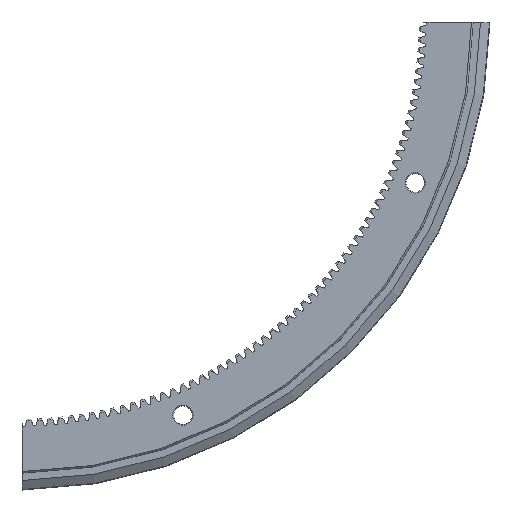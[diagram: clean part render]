
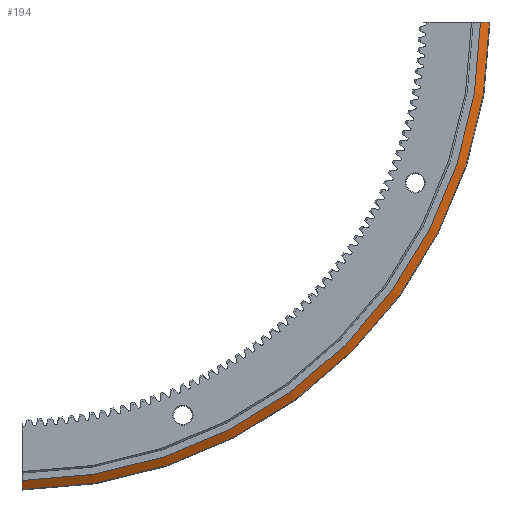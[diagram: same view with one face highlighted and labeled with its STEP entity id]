
A CAD part, front view. The second image highlights one B-rep face of the part: STEP entity #194.
In plain terms, the highlighted conical face has half-angle 55 degrees and reference radius 137.157 mm.
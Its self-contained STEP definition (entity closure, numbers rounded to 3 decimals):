
#194 = ADVANCED_FACE( '', ( #632 ), #633, .T. );
#632 = FACE_OUTER_BOUND( '', #1280, .T. );
#633 = CONICAL_SURFACE( '', #1281, 137.157, 0.96 );
#1280 = EDGE_LOOP( '', ( #2648, #2649, #2650, #2651 ) );
#1281 = AXIS2_PLACEMENT_3D( '', #2652, #2653, #2654 );
#2648 = ORIENTED_EDGE( '', *, *, #5113, .T. );
#2649 = ORIENTED_EDGE( '', *, *, #5114, .T. );
#2650 = ORIENTED_EDGE( '', *, *, #5115, .F. );
#2651 = ORIENTED_EDGE( '', *, *, #5107, .T. );
#2652 = CARTESIAN_POINT( '', ( 0., 7.75, 0. ) );
#2653 = DIRECTION( '', ( 0., 1., 0. ) );
#2654 = DIRECTION( '', ( 0., 0., 1. ) );
#5107 = EDGE_CURVE( '', #6637, #6635, #6638, .T. );
#5113 = EDGE_CURVE( '', #6635, #6648, #6649, .T. );
#5114 = EDGE_CURVE( '', #6648, #6650, #6651, .T. );
#5115 = EDGE_CURVE( '', #6637, #6650, #6652, .T. );
#6635 = VERTEX_POINT( '', #9027 );
#6637 = VERTEX_POINT( '', #9038 );
#6638 = B_SPLINE_CURVE_WITH_KNOTS( '', 3, ( #9039, #9040, #9041, #9042 ), .UNSPECIFIED., .F., .F., ( 4, 4 ), ( 0.075, 0.079 ), .UNSPECIFIED. );
#6648 = VERTEX_POINT( '', #9059 );
#6649 = CIRCLE( '', #9060, 139.785 );
#6650 = VERTEX_POINT( '', #9061 );
#6651 = B_SPLINE_CURVE_WITH_KNOTS( '', 3, ( #9062, #9063, #9064, #9065 ), .UNSPECIFIED., .F., .F., ( 4, 4 ), ( 0.126, 0.129 ), .UNSPECIFIED. );
#6652 = CIRCLE( '', #9066, 137.157 );
#9027 = CARTESIAN_POINT( '', ( 1., 9.59, -139.781 ) );
#9038 = CARTESIAN_POINT( '', ( 1., 7.75, -137.153 ) );
#9039 = CARTESIAN_POINT( '', ( 1., 7.75, -137.153 ) );
#9040 = CARTESIAN_POINT( '', ( 1., 8.363, -138.029 ) );
#9041 = CARTESIAN_POINT( '', ( 1., 8.977, -138.905 ) );
#9042 = CARTESIAN_POINT( '', ( 1., 9.59, -139.781 ) );
#9059 = CARTESIAN_POINT( '', ( 139.781, 9.59, -1. ) );
#9060 = AXIS2_PLACEMENT_3D( '', #9927, #9928, #9929 );
#9061 = CARTESIAN_POINT( '', ( 137.153, 7.75, -1. ) );
#9062 = CARTESIAN_POINT( '', ( 139.781, 9.59, -1. ) );
#9063 = CARTESIAN_POINT( '', ( 138.905, 8.977, -1. ) );
#9064 = CARTESIAN_POINT( '', ( 138.029, 8.363, -1. ) );
#9065 = CARTESIAN_POINT( '', ( 137.153, 7.75, -1. ) );
#9066 = AXIS2_PLACEMENT_3D( '', #9930, #9931, #9932 );
#9927 = CARTESIAN_POINT( '', ( 0., 9.59, 0. ) );
#9928 = DIRECTION( '', ( 0., -1., 0. ) );
#9929 = DIRECTION( '', ( 0., 0., -1. ) );
#9930 = CARTESIAN_POINT( '', ( 0., 7.75, 0. ) );
#9931 = DIRECTION( '', ( 0., -1., 0. ) );
#9932 = DIRECTION( '', ( 0., 0., -1. ) );
